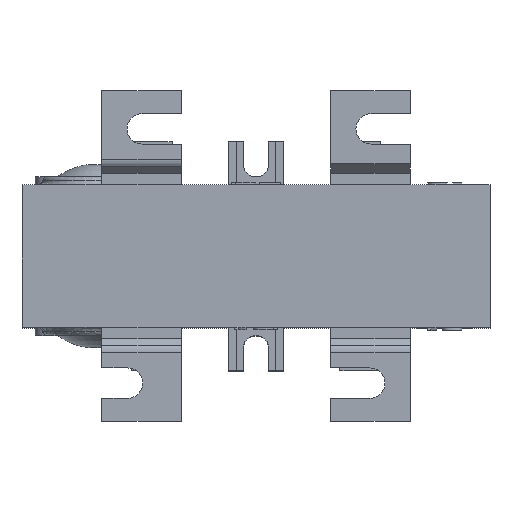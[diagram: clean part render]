
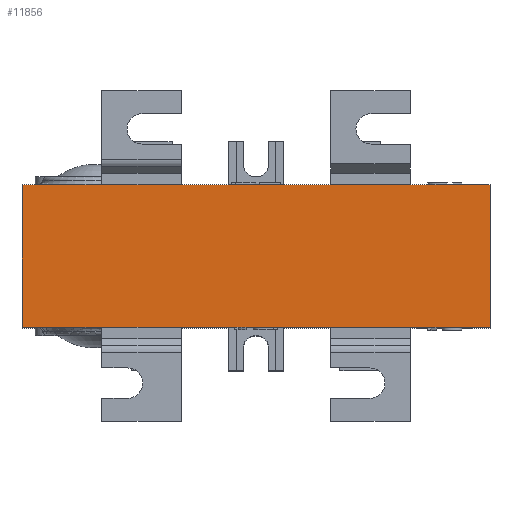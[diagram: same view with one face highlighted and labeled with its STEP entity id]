
A CAD part, top view. The second image highlights one B-rep face of the part: STEP entity #11856.
In plain terms, the highlighted planar face has unit normal (0, 0, 1).
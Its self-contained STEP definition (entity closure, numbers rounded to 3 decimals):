
#864=ORIENTED_EDGE('',*,*,#3088,.T.);
#865=ORIENTED_EDGE('',*,*,#3294,.T.);
#866=ORIENTED_EDGE('',*,*,#3046,.T.);
#867=ORIENTED_EDGE('',*,*,#3295,.T.);
#3046=EDGE_CURVE('',#4298,#4296,#5146,.T.);
#3088=EDGE_CURVE('',#4336,#4334,#5166,.T.);
#3294=EDGE_CURVE('',#4334,#4298,#5322,.T.);
#3295=EDGE_CURVE('',#4296,#4336,#5323,.T.);
#4296=VERTEX_POINT('',#15087);
#4298=VERTEX_POINT('',#15090);
#4334=VERTEX_POINT('',#15289);
#4336=VERTEX_POINT('',#15292);
#5146=LINE('',#15089,#6093);
#5166=LINE('',#15291,#6113);
#5322=LINE('',#15827,#6269);
#5323=LINE('',#15829,#6270);
#6093=VECTOR('',#12962,1000.);
#6113=VECTOR('',#13002,1000.);
#6269=VECTOR('',#13320,1000.);
#6270=VECTOR('',#13323,1000.);
#7052=EDGE_LOOP('',(#864,#865,#866,#867));
#7606=FACE_BOUND('',#7052,.T.);
#8122=PLANE('',#12388);
#11856=ADVANCED_FACE('',(#7606),#8122,.T.);
#12388=AXIS2_PLACEMENT_3D('',#15828,#13321,#13322);
#12962=DIRECTION('',(-1.,0.,0.));
#13002=DIRECTION('',(1.,0.,0.));
#13320=DIRECTION('',(0.,1.,0.));
#13321=DIRECTION('',(0.,0.,1.));
#13322=DIRECTION('',(1.,0.,0.));
#13323=DIRECTION('',(0.,-1.,0.));
#15087=CARTESIAN_POINT('',(-46.,14.,100.));
#15089=CARTESIAN_POINT('',(46.,14.,100.));
#15090=CARTESIAN_POINT('',(46.,14.,100.));
#15289=CARTESIAN_POINT('',(46.,-14.,100.));
#15291=CARTESIAN_POINT('',(-46.,-14.,100.));
#15292=CARTESIAN_POINT('',(-46.,-14.,100.));
#15827=CARTESIAN_POINT('',(46.,-14.,100.));
#15828=CARTESIAN_POINT('',(0.,0.,100.));
#15829=CARTESIAN_POINT('',(-46.,14.,100.));
